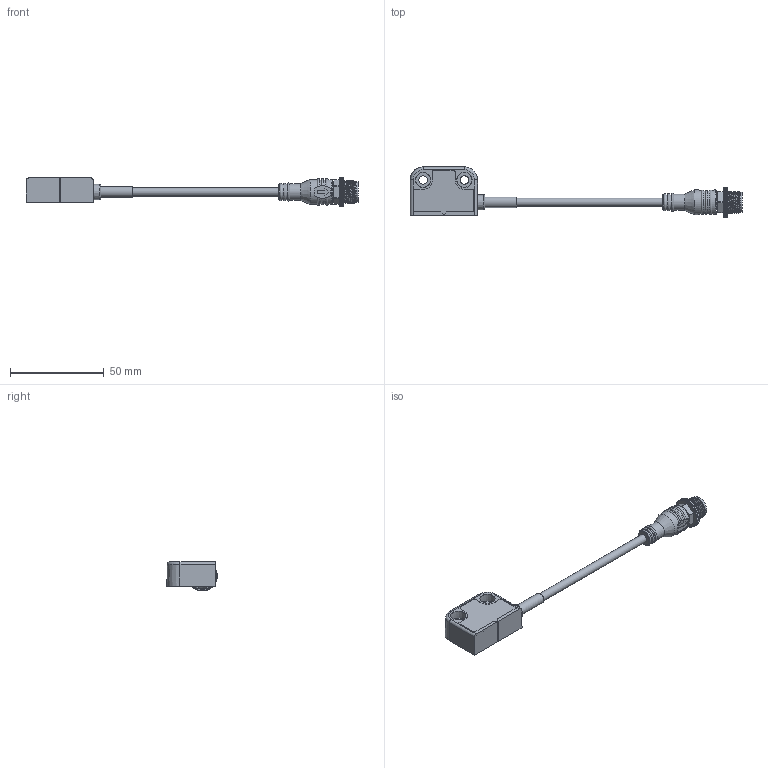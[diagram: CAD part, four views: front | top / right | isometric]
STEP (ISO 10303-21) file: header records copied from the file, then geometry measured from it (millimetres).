
FILE_DESCRIPTION(/* description */ (''),/* implementation_level */ '2;1');
FILE_NAME(/* name */ 'V:/a TO PERSON/Vilius/MC36/3D/Product_models/MC36CHxxxLT1.step',/* time_stamp */ '2022-01-27T13:03:26+02:00',/* author */ (''),/* organization */ (''),/* preprocessor_version */ 'ST-DEVELOPER v18.1',/* originating_system */ 'Autodesk Translation Framework v10.10.0.1391',/* authorisation */ '');
FILE_SCHEMA (('AUTOMOTIVE_DESIGN { 1 0 10303 214 3 1 1 }'));
Length unit declared in the file: millimetre
Products named in the file (2): MC36CHxxxLT1; _M12_pigtail.e7c0c495-f55b-43fc-9cd4-ada7be4faf41
Assembly tree (1 placements, depth 2):
  MC36CHxxxLT1
    _M12_pigtail.e7c0c495-f55b-43fc-9cd4-ada7be4faf41
Bounding box: 176.85 x 26.79 x 15.8 mm (x, y, z)
Volume: 16067.4 mm3; surface area: 13499 mm2
Topology: 10 solids, 10 shells, 790 faces, 2230 edges, 1482 vertices
Faces by surface type: plane 399, cylinder 324, cone 43, torus 13, bspline 11
Full cylindrical faces by diameter (mm): 1 x4, 4.4 x2, 5.6 x1, 7.8 x1, 8 x2, 8.151 x2, 8.2 x2, 8.4 x1, 8.615 x1, 9.8 x2, 10.741 x5, 10.8 x1, 11.884 x6, 13.316 x2
Entity records: 27851 total; most frequent: CARTESIAN_POINT 6732, ORIENTED_EDGE 4460, DIRECTION 4447, EDGE_CURVE 2230, AXIS2_PLACEMENT_3D 1517, VERTEX_POINT 1482, LINE 1413, VECTOR 1413
